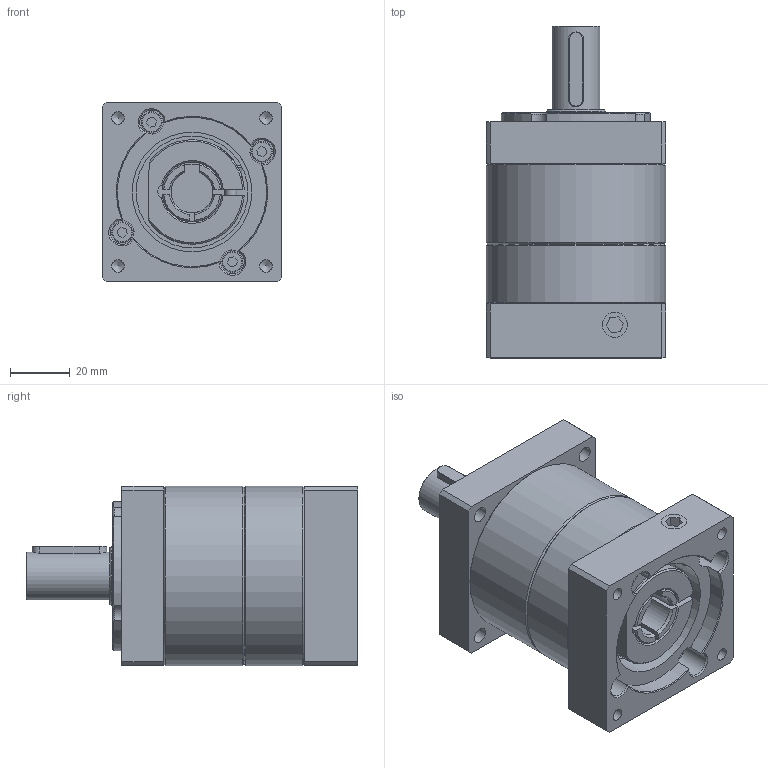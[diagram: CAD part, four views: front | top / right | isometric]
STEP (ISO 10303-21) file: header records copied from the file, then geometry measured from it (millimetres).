
FILE_DESCRIPTION((''),'2;1');
FILE_NAME('D:\T-DATA\Desktop\標準型-型錄用3D\PS60A-1(50&70-M5).stp','2016-10-17T15:10:21',('Administrator'),(''),'Autodesk Inventor 2013','Autodesk Inventor 2013','');
FILE_SCHEMA(('AUTOMOTIVE_DESIGN { 1 0 10303 214 1 1 1 1 }'));
Length unit declared in the file: millimetre
Products named in the file (1): PS60A-1(50&70-M5)
Bounding box: 60 x 111 x 60 mm (x, y, z)
Volume: 225551.9 mm3; surface area: 48904.4 mm2
Topology: 5 solids, 5 shells, 296 faces, 700 edges, 459 vertices
Faces by surface type: plane 151, cylinder 85, cone 48, torus 12
Full cylindrical faces by diameter (mm): 3.3 x1, 4 x5, 4.134 x5, 4.2 x8, 4.3 x1, 5.2 x4, 7 x9, 7.5 x4, 8 x4, 8.356 x1, 8.376 x1, 16 x1, 20 x1, 24.5 x1, 28 x1, 37.4 x1, 40 x1, 42 x1, 45 x2, 60 x2
Entity records: 8227 total; most frequent: CARTESIAN_POINT 1666, DIRECTION 1363, ORIENTED_EDGE 1204, EDGE_CURVE 602, AXIS2_PLACEMENT_3D 534, VERTEX_POINT 441, EDGE_LOOP 437, FACE_OUTER_BOUND 296
